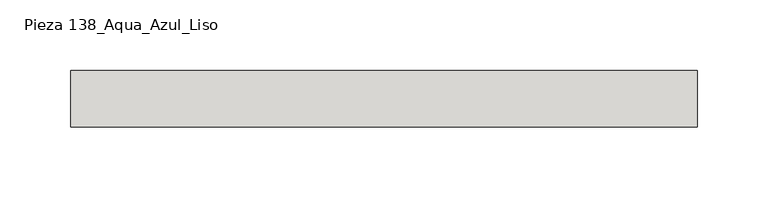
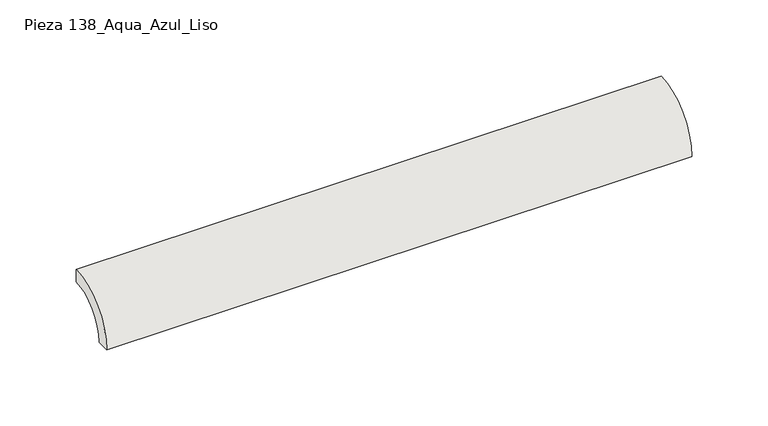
"""IFC4 building model written with IfcOpenShell, lengths in millimetres: slab geometry, ROSA GRES_138 : Pieza 138_Aqua_Azul_Liso."""

from ifc_helpers import new_model, si_unit, point, frame, frame_2d, origin, origin_2d, place, context, project, spatial, polyline, circle_curve, trimmed, segment, composite_curve, outline, extrude, source, transform, mapped, element, save


def pieza_138_aqua_azul_liso_8b39e214(model_context):
    return source(origin(), model_context, "Body", "SweptSolid", [
        extrude(outline(composite_curve([segment(polyline([(0.0, 40.0), (0.0, 30.0265886)]), True, "CONTINUOUS"), segment(trimmed(circle_curve(frame_2d((-0.0044453, 0.0044453)), 30.0221435), [point((0.0, 30.0265886))], [point((-30.0265886, 0.0))], True, "CARTESIAN"), True, "CONTINUOUS"), segment(polyline([(-30.0265886, 0.0), (-40.0, 0.0)]), True, "CONTINUOUS"), segment(trimmed(circle_curve(origin_2d(), 40.0), [point((-40.0, 0.0))], [point((0.0, 40.0))], False, "CARTESIAN"), True, "CONTINUOUS")], self_intersect=False)), frame((0.0, 0.0, 0.0), z_axis=(1.0, 0.0, 0.0), x_axis=(0.0, 1.0, 0.0)), (0.0, 0.0, 1.0), 443.005793),
    ])


if __name__ == "__main__":
    model = new_model("IFC4")
    model_context = context("Model", 3, world=origin())
    ifc_project = project(units=[si_unit("LENGTHUNIT", "METRE", prefix="MILLI")], contexts=[model_context])
    site = spatial("IfcSite", under=ifc_project)
    building = spatial("IfcBuilding", under=site)
    placement = place(None, origin())
    pieza_138_aqua_azul_liso_shape = pieza_138_aqua_azul_liso_8b39e214(model_context)
    element("IfcSlab", 1, ObjectType="ROSA GRES_138 : Pieza 138_Aqua_Azul_Liso", at=placement, inside=building, context=model_context, shape_type="MappedRepresentation", body=[
        mapped(pieza_138_aqua_azul_liso_shape, transform((0.0, 0.0, 0.0), x_axis=(1.0, 0.0, 0.0), y_axis=(0.0, 1.0, 0.0), z_axis=(0.0, 0.0, 1.0))),
    ])
    save(model, "model.ifc")
